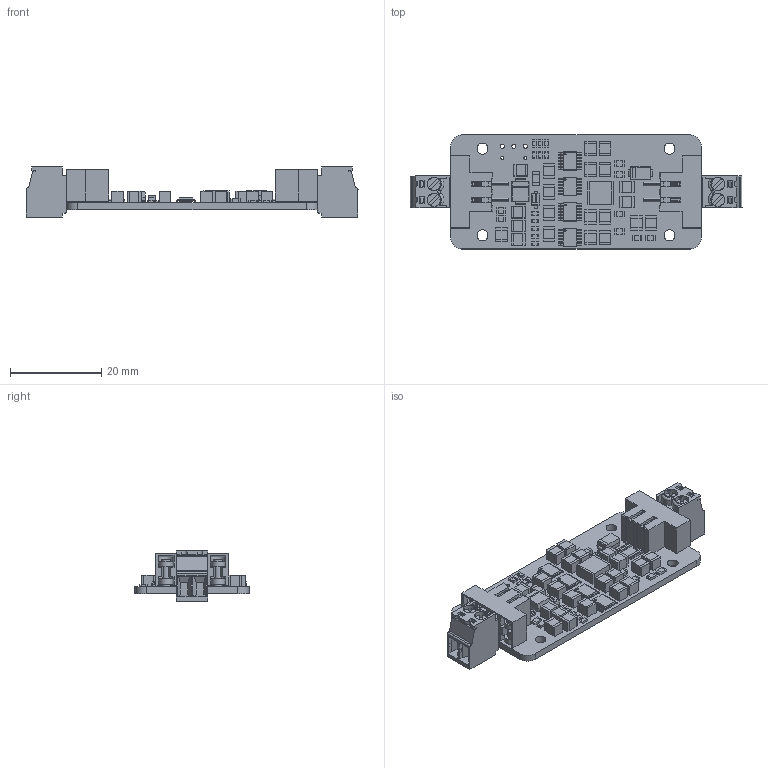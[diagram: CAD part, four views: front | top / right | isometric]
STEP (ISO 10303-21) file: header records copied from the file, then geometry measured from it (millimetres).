
FILE_DESCRIPTION(('Open CASCADE Model'),'2;1');
FILE_NAME('Open CASCADE Shape Model','2021-01-07T15:47:08',('Author'),( 'Open CASCADE'),'Open CASCADE STEP processor 6.8','Open CASCADE 6.8' ,'Unknown');
FILE_SCHEMA(('AUTOMOTIVE_DESIGN { 1 0 10303 214 1 1 1 1 }'));
Length unit declared in the file: millimetre
Products named in the file (108): QPS100P
Assembly tree (258 placements, depth 4):
  QPS100P
    QPS100P
      QPS100P
    QPS100P
      QPS100P
        QPS100P
        QPS100P
        QPS100P
        QPS100P
        QPS100P
        QPS100P
        QPS100P
        QPS100P
        QPS100P
        QPS100P
    QPS100P
      QPS100P
        QPS100P
        QPS100P
        QPS100P
        QPS100P
        QPS100P
        QPS100P
        QPS100P
        QPS100P
        QPS100P
        QPS100P
    QPS100P
      QPS100P
      QPS100P
      QPS100P
    QPS100P
      QPS100P
      QPS100P
      QPS100P
    QPS100P
      QPS100P
      QPS100P
      QPS100P
    QPS100P
      QPS100P
      QPS100P
      QPS100P
    QPS100P
      QPS100P
      QPS100P
      QPS100P
    QPS100P
      QPS100P
      QPS100P
      QPS100P
    QPS100P
      QPS100P
      QPS100P
      QPS100P
    QPS100P
      QPS100P
      QPS100P
      QPS100P
    QPS100P
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Bounding box: 72.8 x 25 x 11 mm (x, y, z)
Volume: 5074.5 mm3; surface area: 9786.9 mm2
Topology: 211 solids, 302 shells, 2543 faces, 6213 edges, 4236 vertices
Faces by surface type: plane 2080, cylinder 381, cone 52, torus 14, extrusion 13, bspline 2, sphere 1
Full cylindrical faces by diameter (mm): 0.35 x8, 0.65 x2, 0.9 x3, 1.4 x4, 1.999 x4, 2 x8, 2.4 x4, 2.9 x8, 3 x8
Entity records: 36805 total; most frequent: CARTESIAN_POINT 7990, DIRECTION 4703, ORIENTED_EDGE 4512, EDGE_CURVE 2487, VERTEX_POINT 1782, VECTOR 1641, LINE 1628, AXIS2_PLACEMENT_3D 1531
